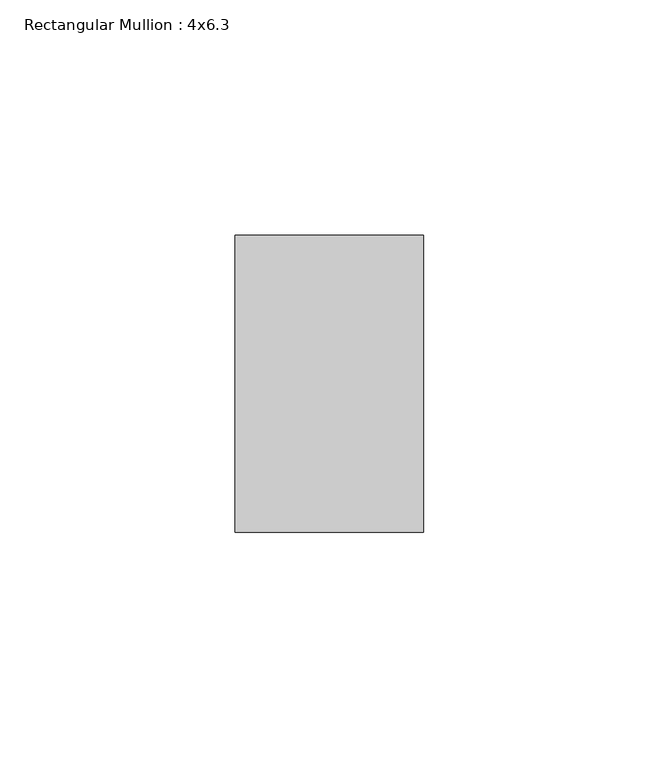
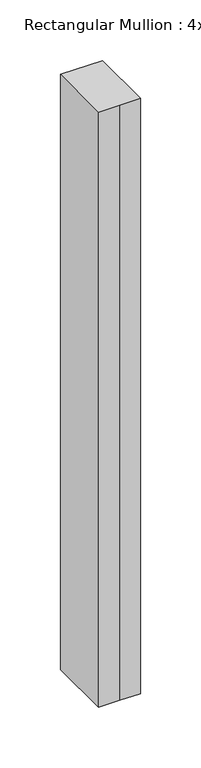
"""IFC4 building model written with IfcOpenShell, lengths in millimetres: member geometry, Rectangular Mullion : 4x6.3."""

from ifc_helpers import new_model, si_unit, frame, origin, place, context, project, spatial, polyline, outline, extrude, source, transform, mapped, element, save


def rectangular_mullion_4x6_3_f102e16a(model_context):
    return source(origin(), model_context, "Body", "SweptSolid", [
        extrude(outline(polyline([(-20.0, 20.0), (-20.0, 83.0), (20.0, 83.0), (20.0, 20.0), (0.0, 20.0), (-20.0, 20.0)])), frame((0.0, 0.0, -599.7407191), z_axis=(0.0, 0.0, 1.0), x_axis=(1.0, 0.0, 0.0)), (0.0, 0.0, 1.0), 599.7407191),
    ])


if __name__ == "__main__":
    model = new_model("IFC4")
    model_context = context("Model", 3, world=origin())
    ifc_project = project(units=[si_unit("LENGTHUNIT", "METRE", prefix="MILLI")], contexts=[model_context])
    site = spatial("IfcSite", under=ifc_project)
    building = spatial("IfcBuilding", under=site)
    placement = place(None, origin())
    rectangular_mullion_4x6_3_shape = rectangular_mullion_4x6_3_f102e16a(model_context)
    element("IfcMember", 1, ObjectType="Rectangular Mullion : 4x6.3", at=placement, inside=building, context=model_context, shape_type="MappedRepresentation", body=[
        mapped(rectangular_mullion_4x6_3_shape, transform((0.0, 0.0, 0.0), x_axis=(1.0, 0.0, 0.0), y_axis=(0.0, 1.0, 0.0), z_axis=(0.0, 0.0, 1.0))),
    ])
    save(model, "model.ifc")
